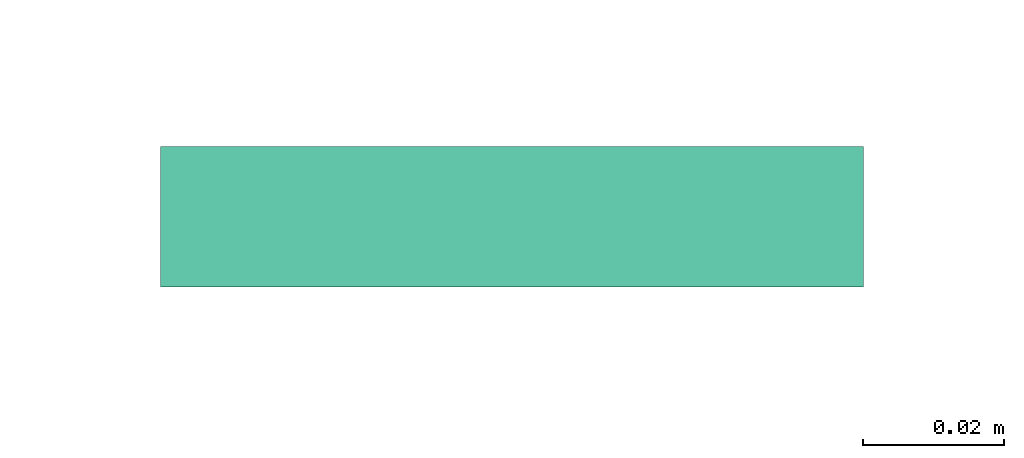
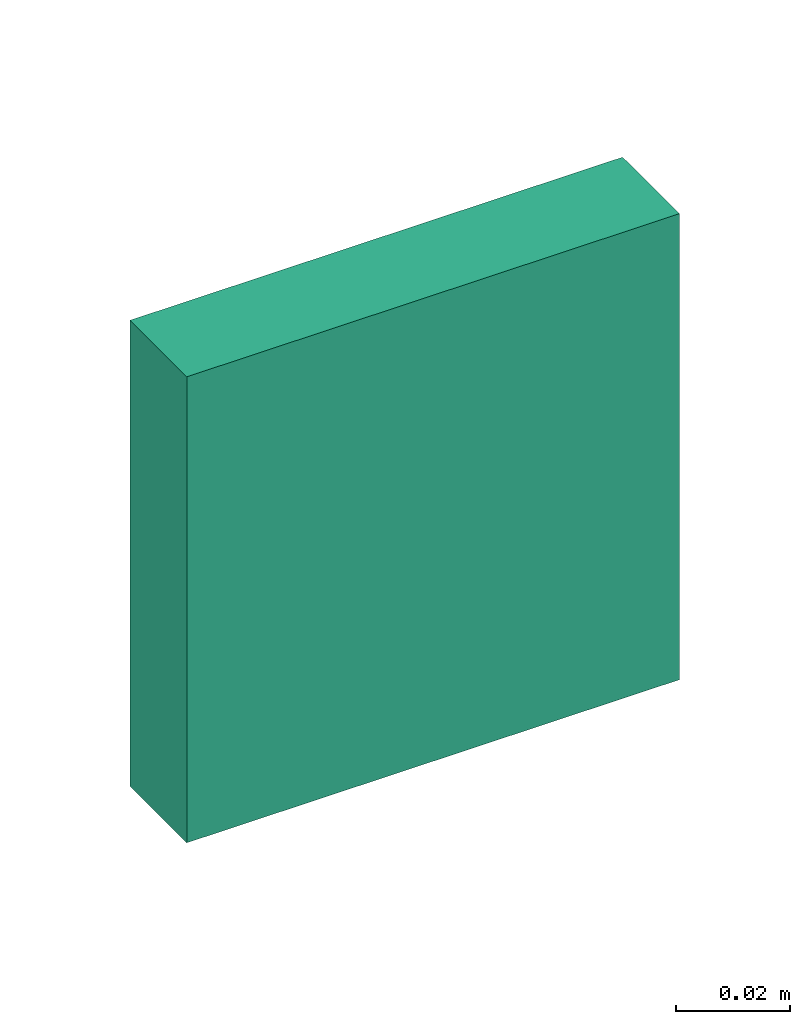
# One storey, part 29 of 146: 1 distribution control element.
"""IFC2X3 building model written with IfcOpenShell, lengths in metres."""

from ifc_helpers import new_model, entity, si_unit, converted_unit, derived_unit, direction, frame, origin, origin_2d_with_axis, place, context, subcontext, project, spatial, rectangle, extrude, source, transform, mapped, type_object, type_shapes, element, save


model = new_model("IFC2X3")

# Units and contexts
model_context = context("Model", 3, precision=1e-05, world=origin(), true_north=direction((6.12303176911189e-17, 1.0)))
body_context = subcontext(model_context, "Body", "Model", "MODEL_VIEW")
ifc_project = project(units=[si_unit("LENGTHUNIT", "METRE"), si_unit("AREAUNIT", "SQUARE_METRE"), si_unit("VOLUMEUNIT", "CUBIC_METRE"), converted_unit("PLANEANGLEUNIT", "DEGREE", entity("IfcRatioMeasure", 0.0174532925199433), si_unit("PLANEANGLEUNIT", "RADIAN"), dimensions=[0, 0, 0, 0, 0, 0, 0]), si_unit("MASSUNIT", "GRAM", prefix="KILO"), derived_unit("MASSDENSITYUNIT", [(si_unit("MASSUNIT", "GRAM", prefix="KILO"), 1), (si_unit("LENGTHUNIT", "METRE"), -3)]), si_unit("TIMEUNIT", "SECOND"), si_unit("FREQUENCYUNIT", "HERTZ"), si_unit("THERMODYNAMICTEMPERATUREUNIT", "DEGREE_CELSIUS"), derived_unit("THERMALTRANSMITTANCEUNIT", [(si_unit("MASSUNIT", "GRAM", prefix="KILO"), 1), (si_unit("THERMODYNAMICTEMPERATUREUNIT", "KELVIN"), -1), (si_unit("TIMEUNIT", "SECOND"), -3)]), derived_unit("VOLUMETRICFLOWRATEUNIT", [(si_unit("LENGTHUNIT", "METRE"), 3), (si_unit("TIMEUNIT", "SECOND"), -1)]), si_unit("ELECTRICCURRENTUNIT", "AMPERE"), si_unit("ELECTRICVOLTAGEUNIT", "VOLT"), si_unit("POWERUNIT", "WATT"), si_unit("FORCEUNIT", "NEWTON"), si_unit("ILLUMINANCEUNIT", "LUX"), si_unit("LUMINOUSFLUXUNIT", "LUMEN"), si_unit("LUMINOUSINTENSITYUNIT", "CANDELA"), derived_unit("USERDEFINED", [(si_unit("MASSUNIT", "GRAM", prefix="KILO"), -1), (si_unit("LENGTHUNIT", "METRE"), -2), (si_unit("TIMEUNIT", "SECOND"), 3), (si_unit("LUMINOUSFLUXUNIT", "LUMEN"), 1)]), derived_unit("LINEARVELOCITYUNIT", [(si_unit("LENGTHUNIT", "METRE"), 1), (si_unit("TIMEUNIT", "SECOND"), -1)]), si_unit("PRESSUREUNIT", "PASCAL"), derived_unit("USERDEFINED", [(si_unit("LENGTHUNIT", "METRE"), -2), (si_unit("MASSUNIT", "GRAM", prefix="KILO"), 1), (si_unit("TIMEUNIT", "SECOND"), -2)])], contexts=[model_context])

# Site, building, storey
site_placement = place(None, origin())
site = spatial("IfcSite", under=ifc_project, at=site_placement, Name="Default", CompositionType="ELEMENT")
building_placement = place(site_placement, origin())
building = spatial("IfcBuilding", under=site, at=building_placement, CompositionType="ELEMENT")
storey_placement = place(building_placement, origin())
storey = spatial("IfcBuildingStorey", under=building, at=storey_placement, Name="S01", CompositionType="ELEMENT", Elevation=0.0)

# Distribution control element
alarm_type = type_object("IfcAlarmType", Name="Incendie_Déclenheur manuel", PredefinedType="NOTDEFINED")
shared_shape = source(origin(), body_context, "Body", "SweptSolid", [
    extrude(rectangle(XDim=0.1, YDim=0.1, at=origin_2d_with_axis()), frame((0.0, 0.0, 0.0), z_axis=(0.0, 0.0, 1.0), x_axis=(0.0, 1.0, 0.0)), (0.0, 0.0, 1.0), 0.02),
])
type_shapes(alarm_type, [shared_shape])
distribution_control_element_placement = place(storey_placement, frame((41.8748155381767, -193.609651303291, 1.05000000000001), z_axis=(0.0, -1.0, 0.0), x_axis=(1.0, 0.0, 0.0)))
element("IfcDistributionControlElement", 1, at=distribution_control_element_placement, inside=storey, type_object=alarm_type, Name="INT_Déclenheur manuel:Incendie_Déclenheur manuel", ObjectType="INT_Déclenheur manuel:Incendie_Déclenheur manuel", context=body_context, shape_type="MappedRepresentation", body=[
    mapped(shared_shape, transform((0.0, 0.0, 0.0), scale=1.0)),
])

save(model, "model.ifc")
